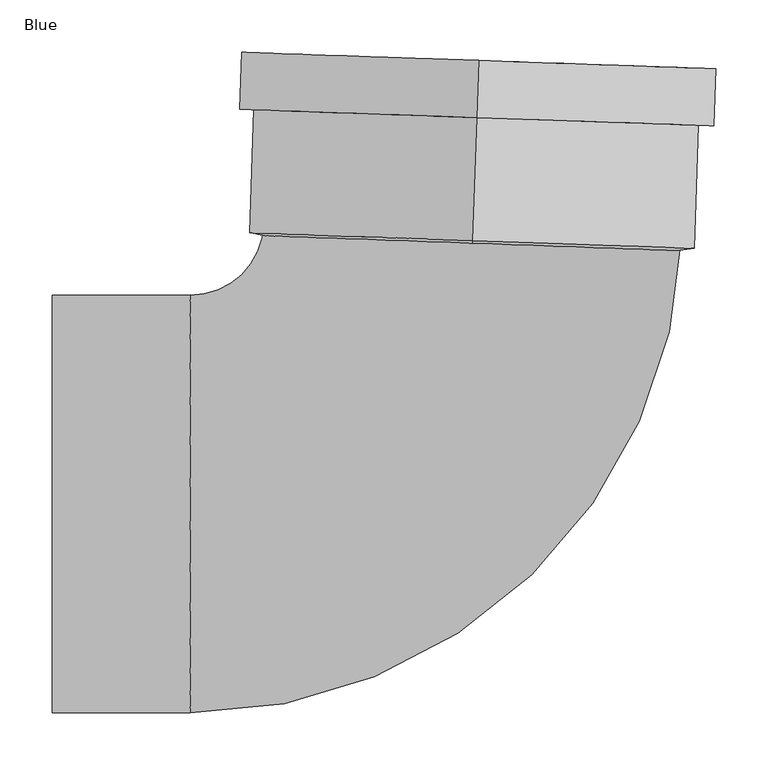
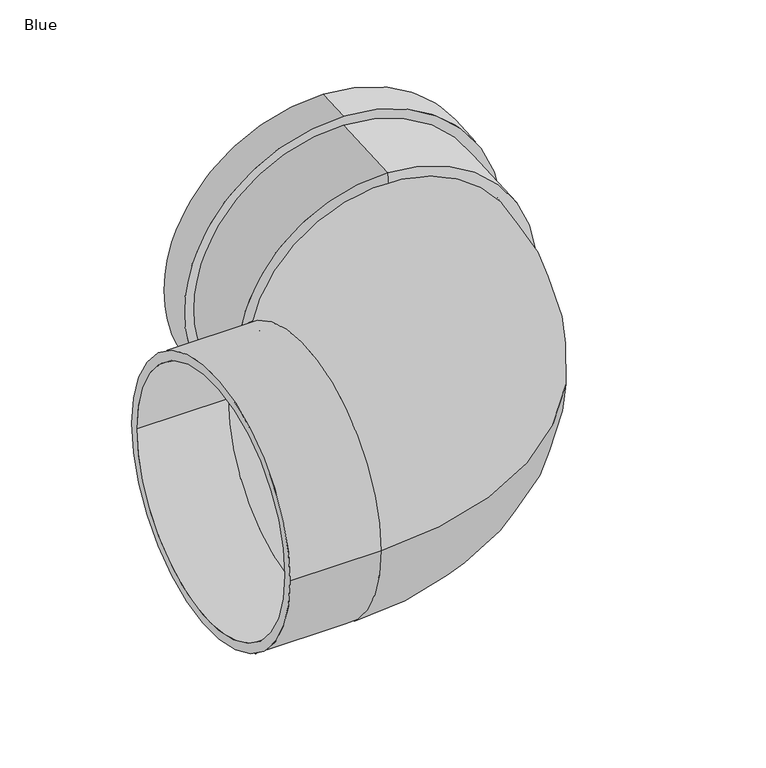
"""IFC4 building model written with IfcOpenShell, lengths in millimetres: pipe fitting geometry, AWADUKT PP SN10 Bend : Blue."""

from ifc_helpers import new_model, si_unit, point, frame, origin, place, context, project, spatial, polyline, circle_curve, ellipse_curve, trimmed, source, transform, mapped, element, save
from ifc_brep_helpers import plane_surface, cylinder_surface, revolved_surface, advanced_brep


def blue_7109e013(model_context):
    return source(origin(), model_context, "Body", "AdvancedBrep", [
        advanced_brep(
        [(12.9302635, 370.2743014, 213.7), (12.9302635, 370.2743014, -213.7), (8.8128214, 252.3661863, -213.7), (8.8128214, 252.3661863, 213.7), (14.8427559, 425.0409187, 227.4), (14.8427559, 425.0409187, -227.4), (12.9302635, 370.2743014, -227.4), (12.9302635, 370.2743014, 227.4), (14.3646328, 411.3492644, 200.0), (14.3646328, 411.3492644, -200.0), (14.8427559, 425.0409187, -200.0), (14.8427559, 425.0409187, 200.0), (13.4083866, 383.9659557, 213.7), (13.4083866, 383.9659557, -213.7), (14.3646328, 411.3492644, -213.7), (14.3646328, 411.3492644, 213.7), (9.2140143, 263.8548484, 200.0), (9.2140143, 263.8548484, -200.0), (13.4083866, 383.9659557, -200.0), (13.4083866, 383.9659557, 200.0), (9.1297083, 261.4406403, 186.3), (9.1297083, 261.4406403, -186.3), (8.6442094, 247.5377702, 186.3), (8.6442094, 247.5377702, -186.3)],
        [
            (0, 1, circle_curve(frame((12.9302635, 370.2743014, 0.0), z_axis=(-0.034899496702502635, -0.9993908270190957, 0.0), x_axis=(0.0, 0.0, -1.0)), 213.7)),
            (1, 2),
            (2, 3, circle_curve(frame((8.8128214, 252.3661863, 0.0), z_axis=(0.034899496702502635, 0.9993908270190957, 0.0), x_axis=(0.0, 0.0, -1.0)), 213.7)),
            (3, 0),
            (4, 5, circle_curve(frame((14.8427559, 425.0409187, 0.0), z_axis=(-0.034899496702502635, -0.9993908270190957, 0.0), x_axis=(0.0, 0.0, -1.0)), 227.4)),
            (5, 6),
            (6, 7, circle_curve(frame((12.9302635, 370.2743014, 0.0), z_axis=(0.034899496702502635, 0.9993908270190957, 0.0), x_axis=(0.0, 0.0, -1.0)), 227.4)),
            (7, 4),
            (8, 9, circle_curve(frame((14.3646328, 411.3492644, 0.0), z_axis=(-0.034899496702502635, -0.9993908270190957, 0.0), x_axis=(0.0, 0.0, -1.0)), 200.0)),
            (9, 10),
            (10, 11, circle_curve(frame((14.8427559, 425.0409187, 0.0), z_axis=(0.034899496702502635, 0.9993908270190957, 0.0), x_axis=(0.0, 0.0, -1.0)), 200.0)),
            (11, 8),
            (12, 13, circle_curve(frame((13.4083866, 383.9659557, 0.0), z_axis=(-0.034899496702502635, -0.9993908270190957, 0.0), x_axis=(0.0, 0.0, -1.0)), 213.7)),
            (13, 14),
            (14, 15, circle_curve(frame((14.3646328, 411.3492644, 0.0), z_axis=(0.034899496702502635, 0.9993908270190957, 0.0), x_axis=(0.0, 0.0, -1.0)), 213.7)),
            (15, 12),
            (16, 17, circle_curve(frame((9.2140143, 263.8548484, 0.0), z_axis=(-0.034899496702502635, -0.9993908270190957, 0.0), x_axis=(0.0, 0.0, -1.0)), 200.0)),
            (17, 18),
            (18, 19, circle_curve(frame((13.4083866, 383.9659557, 0.0), z_axis=(0.034899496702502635, 0.9993908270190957, 0.0), x_axis=(0.0, 0.0, -1.0)), 200.0)),
            (19, 16),
            (20, 21, circle_curve(frame((9.1297083, 261.4406403, 0.0), z_axis=(-0.034899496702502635, -0.9993908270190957, 0.0), x_axis=(0.0, 0.0, -1.0)), 186.3)),
            (21, 17),
            (16, 20),
            (22, 23, circle_curve(frame((8.6442094, 247.5377702, 0.0), z_axis=(-0.034899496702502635, -0.9993908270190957, 0.0), x_axis=(0.0, 0.0, -1.0)), 186.3)),
            (23, 21),
            (20, 22),
            (2, 23),
            (22, 3),
            (1, 0, circle_curve(frame((12.9302635, 370.2743014, 0.0), z_axis=(-0.034899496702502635, -0.9993908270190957, 0.0), x_axis=(0.0, 0.0, 1.0)), 213.7)),
            (3, 2, circle_curve(frame((8.8128214, 252.3661863, 0.0), z_axis=(0.034899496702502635, 0.9993908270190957, 0.0), x_axis=(0.0, 0.0, 1.0)), 213.7)),
            (6, 7, circle_curve(frame((12.9302635, 370.2743014, 0.0), z_axis=(-0.034899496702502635, -0.9993908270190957, 0.0), x_axis=(0.0, 0.0, 1.0)), 227.4)),
            (5, 4, circle_curve(frame((14.8427559, 425.0409187, 0.0), z_axis=(-0.034899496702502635, -0.9993908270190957, 0.0), x_axis=(0.0, 0.0, 1.0)), 227.4)),
            (10, 11, circle_curve(frame((14.8427559, 425.0409187, 0.0), z_axis=(-0.034899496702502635, -0.9993908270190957, 0.0), x_axis=(0.0, 0.0, 1.0)), 200.0)),
            (9, 8, circle_curve(frame((14.3646328, 411.3492644, 0.0), z_axis=(-0.034899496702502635, -0.9993908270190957, 0.0), x_axis=(0.0, 0.0, 1.0)), 200.0)),
            (14, 15, circle_curve(frame((14.3646328, 411.3492644, 0.0), z_axis=(-0.034899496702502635, -0.9993908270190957, 0.0), x_axis=(0.0, 0.0, 1.0)), 213.7)),
            (13, 12, circle_curve(frame((13.4083866, 383.9659557, 0.0), z_axis=(-0.034899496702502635, -0.9993908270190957, 0.0), x_axis=(0.0, 0.0, 1.0)), 213.7)),
            (18, 19, circle_curve(frame((13.4083866, 383.9659557, 0.0), z_axis=(-0.034899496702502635, -0.9993908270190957, 0.0), x_axis=(0.0, 0.0, 1.0)), 200.0)),
            (17, 16, circle_curve(frame((9.2140143, 263.8548484, 0.0), z_axis=(-0.034899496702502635, -0.9993908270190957, 0.0), x_axis=(0.0, 0.0, 1.0)), 200.0)),
            (21, 20, circle_curve(frame((9.1297083, 261.4406403, 0.0), z_axis=(-0.034899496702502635, -0.9993908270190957, 0.0), x_axis=(0.0, 0.0, 1.0)), 186.3)),
            (23, 22, circle_curve(frame((8.6442094, 247.5377702, 0.0), z_axis=(-0.034899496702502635, -0.9993908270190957, 0.0), x_axis=(0.0, 0.0, 1.0)), 186.3)),
        ],
        [
            cylinder_surface(frame((9.1297083, 261.4406403, 0.0), z_axis=(0.034899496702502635, 0.9993908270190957, 0.0), x_axis=(0.0, 0.0, -1.0)), 213.7),
            cylinder_surface(frame((9.1297083, 261.4406403, 0.0), z_axis=(0.034899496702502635, 0.9993908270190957, 0.0), x_axis=(0.0, 0.0, -1.0)), 227.4),
            revolved_surface(polyline([(14.842755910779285, 425.0409186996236, -200.0), (14.364632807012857, 411.34926439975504, -200.0)]), (9.1297083, 261.4406403, 0.0), (0.034899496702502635, 0.9993908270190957, 0.0)),
            revolved_surface(polyline([(14.364632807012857, 411.34926439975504, -213.7), (13.40838659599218, 383.96595570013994, -213.7)]), (9.1297083, 261.4406403, 0.0), (0.034899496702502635, 0.9993908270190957, 0.0)),
            revolved_surface(polyline([(13.40838659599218, 383.96595570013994, -200.0), (9.214014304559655, 263.85484839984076, -200.0)]), (9.1297083, 261.4406403, 0.0), (0.034899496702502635, 0.9993908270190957, 0.0)),
            revolved_surface(polyline([(9.2140143, 263.8548484, -200.0), (9.1297083, 261.4406403, -186.3)]), (9.1297083, 261.4406403, 0.0), (0.034899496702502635, 0.9993908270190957, 0.0)),
            revolved_surface(polyline([(9.1297083, 261.4406403, -186.3), (8.644209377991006, 247.5377702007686, -186.3)]), (9.1297083, 261.4406403, 0.0), (0.034899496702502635, 0.9993908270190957, 0.0)),
            revolved_surface(polyline([(8.6442094, 247.5377702, -186.3), (8.8128214, 252.3661863, -213.7)]), (9.1297083, 261.4406403, 0.0), (0.034899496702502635, 0.9993908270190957, 0.0)),
            cylinder_surface(frame((9.1297083, 261.4406403, 0.0), z_axis=(0.034899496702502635, 0.9993908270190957, 0.0), x_axis=(0.0, 0.0, 1.0)), 213.7),
            plane_surface(frame((12.9302635, 370.2743014, 0.0), z_axis=(-0.034899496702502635, -0.9993908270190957, 0.0), x_axis=(0.0, 0.0, 1.0))),
            cylinder_surface(frame((9.1297083, 261.4406403, 0.0), z_axis=(0.034899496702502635, 0.9993908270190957, 0.0), x_axis=(0.0, 0.0, 1.0)), 227.4),
            plane_surface(frame((14.8427559, 425.0409187, 0.0), z_axis=(0.034899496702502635, 0.9993908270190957, 0.0), x_axis=(0.0, 0.0, 1.0))),
            revolved_surface(polyline([(14.842755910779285, 425.0409186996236, 200.0), (14.364632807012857, 411.34926439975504, 200.0)]), (9.1297083, 261.4406403, 0.0), (0.034899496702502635, 0.9993908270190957, 0.0)),
            plane_surface(frame((14.3646328, 411.3492644, 0.0), z_axis=(-0.034899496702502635, -0.9993908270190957, 0.0), x_axis=(0.0, 0.0, 1.0))),
            revolved_surface(polyline([(14.364632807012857, 411.34926439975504, 213.7), (13.40838659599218, 383.96595570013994, 213.7)]), (9.1297083, 261.4406403, 0.0), (0.034899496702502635, 0.9993908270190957, 0.0)),
            plane_surface(frame((13.4083866, 383.9659557, 0.0), z_axis=(0.034899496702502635, 0.9993908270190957, 0.0), x_axis=(0.0, 0.0, 1.0))),
            revolved_surface(polyline([(13.40838659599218, 383.96595570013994, 200.0), (9.214014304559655, 263.85484839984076, 200.0)]), (9.1297083, 261.4406403, 0.0), (0.034899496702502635, 0.9993908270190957, 0.0)),
            revolved_surface(polyline([(9.2140143, 263.8548484, 200.0), (9.1297083, 261.4406403, 186.3)]), (9.1297083, 261.4406403, 0.0), (0.034899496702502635, 0.9993908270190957, 0.0)),
            revolved_surface(polyline([(9.1297083, 261.4406403, 186.3), (8.644209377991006, 247.5377702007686, 186.3)]), (9.1297083, 261.4406403, 0.0), (0.034899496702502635, 0.9993908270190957, 0.0)),
            revolved_surface(polyline([(8.6442094, 247.5377702, 186.3), (8.8128214, 252.3661863, 213.7)]), (9.1297083, 261.4406403, 0.0), (0.034899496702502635, 0.9993908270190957, 0.0)),
        ],
        [
            (0, [[1, 2, 3, 4]]),
            (1, [[5, 6, 7, 8]]),
            (2, [[9, 10, 11, 12]]),
            (3, [[13, 14, 15, 16]]),
            (4, [[17, 18, 19, 20]]),
            (5, [[21, 22, -17, 23]]),
            (6, [[24, 25, -21, 26]]),
            (7, [[-3, 27, -24, 28]]),
            (8, [[29, -4, 30, -2]]),
            (9, [[31, -7], [-29, -1]]),
            (10, [[32, -8, -31, -6]]),
            (11, [[-32, -5], [33, -11]]),
            (12, [[34, -12, -33, -10]]),
            (13, [[35, -15], [-34, -9]]),
            (14, [[36, -16, -35, -14]]),
            (15, [[-36, -13], [37, -19]]),
            (16, [[38, -20, -37, -18]]),
            (17, [[39, -23, -38, -22]]),
            (18, [[40, -26, -39, -25]]),
            (19, [[-30, -28, -40, -27]]),
        ],
    ),
        advanced_brep(
        [(-394.0, -200.0, 0.0), (-394.0, 200.0, 0.0), (-394.0, -186.3, 0.0), (-394.0, 186.3, 0.0), (209.0078737, 254.460741, 0.0), (-190.7484571, 268.4205397, 0.0), (195.3162194, 254.9388641, 0.0), (-177.0568027, 267.9424166, 0.0), (-261.6, -186.3, 0.0), (-261.6, 186.3, 0.0), (-261.6, -200.0, 0.0), (-261.6, 200.0, 0.0)],
        [
            (0, 1, circle_curve(frame((-394.0, 0.0, 0.0), z_axis=(-1.0, 0.0, 0.0), x_axis=(0.0, 1.0, 0.0)), 200.0)),
            (1, 0, circle_curve(frame((-394.0, 0.0, 0.0), z_axis=(-1.0, 0.0, 0.0), x_axis=(0.0, 1.0, 0.0)), 200.0)),
            (2, 3, circle_curve(frame((-394.0, 0.0, 0.0), z_axis=(1.0, 0.0, 0.0), x_axis=(0.0, 1.0, 0.0)), 186.3)),
            (3, 2, circle_curve(frame((-394.0, 0.0, 0.0), z_axis=(1.0, 0.0, 0.0), x_axis=(0.0, 1.0, 0.0)), 186.3)),
            (4, 5, circle_curve(frame((9.1297083, 261.4406403, 0.0), z_axis=(0.03489949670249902, 0.9993908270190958, 0.0), x_axis=(-0.9993908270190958, 0.03489949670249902, 0.0)), 200.0)),
            (5, 4, circle_curve(frame((9.1297083, 261.4406403, 0.0), z_axis=(0.03489949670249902, 0.9993908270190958, 0.0), x_axis=(-0.9993908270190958, 0.03489949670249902, 0.0)), 200.0)),
            (6, 7, circle_curve(frame((9.1297083, 261.4406403, 0.0), z_axis=(-0.03489949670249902, -0.9993908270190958, 0.0), x_axis=(-0.9993908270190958, 0.03489949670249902, 0.0)), 186.3)),
            (7, 6, circle_curve(frame((9.1297083, 261.4406403, 0.0), z_axis=(-0.03489949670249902, -0.9993908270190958, 0.0), x_axis=(-0.9993908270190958, 0.03489949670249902, 0.0)), 186.3)),
            (2, 8),
            (8, 9, circle_curve(frame((-261.6, 0.0, 0.0), z_axis=(1.0, 0.0, 0.0), x_axis=(0.0, 1.0, 0.0)), 186.3)),
            (9, 3),
            (9, 8, circle_curve(frame((-261.6, 0.0, 0.0), z_axis=(1.0, 0.0, 0.0), x_axis=(0.0, 1.0, 0.0)), 186.3)),
            (0, 10),
            (10, 11, circle_curve(frame((-261.6, 0.0, 0.0), z_axis=(-1.0, 0.0, 0.0), x_axis=(0.0, 1.0, 0.0)), 200.0)),
            (11, 1),
            (11, 10, circle_curve(frame((-261.6, 0.0, 0.0), z_axis=(-1.0, 0.0, 0.0), x_axis=(0.0, 1.0, 0.0)), 200.0)),
            (7, 9, circle_curve(frame((-261.6, 270.8947301, 0.0), z_axis=(0.0, 0.0, -1.0), x_axis=(0.0, -1.0, 0.0)), 84.5947301)),
            (8, 6, circle_curve(frame((-261.6, 270.8947301, 0.0), z_axis=(0.0, 0.0, 1.0), x_axis=(0.0, -1.0, 0.0)), 457.1947301)),
            (5, 11, circle_curve(frame((-261.6, 270.8947301, 0.0), z_axis=(0.0, 0.0, -1.0), x_axis=(0.0, -1.0, 0.0)), 70.8947301)),
            (10, 4, circle_curve(frame((-261.6, 270.8947301, 0.0), z_axis=(0.0, 0.0, 1.0), x_axis=(0.0, -1.0, 0.0)), 470.8947301)),
        ],
        [
            plane_surface(frame((-394.0, 0.0, 0.0), z_axis=(-1.0, 0.0, 0.0), x_axis=(0.0, 0.0, 1.0))),
            plane_surface(frame((9.1297083, 261.4406403, 0.0), z_axis=(0.03489949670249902, 0.9993908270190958, 0.0), x_axis=(0.0, 0.0, 1.0))),
            revolved_surface(polyline([(-261.6, 186.3, 0.0), (-394.0, 186.3, 0.0)]), (-394.0, 0.0, 0.0), (1.0, 0.0, 0.0)),
            cylinder_surface(frame((-394.0, 0.0, 0.0), z_axis=(-1.0, 0.0, 0.0), x_axis=(0.0, 1.0, 0.0)), 200.0),
            revolved_surface(trimmed(ellipse_curve(frame((-261.6, 0.0, 0.0), z_axis=(1.0, 0.0, 0.0), x_axis=(0.0, 1.0, 0.0)), 186.3, 186.3), [point((-261.6, -186.3, 0.0))], [point((-261.6, 186.3, 0.0))], True, "CARTESIAN"), (-261.6, 270.8947301, 0.0), (0.0, 0.0, 1.0)),
            revolved_surface(trimmed(ellipse_curve(frame((-261.6, 0.0, 0.0), z_axis=(1.0, 0.0, 0.0), x_axis=(0.0, 1.0, 0.0)), 186.3, 186.3), [point((-261.6, 186.3, 0.0))], [point((-261.6, -186.3, 0.0))], True, "CARTESIAN"), (-261.6, 270.8947301, 0.0), (0.0, 0.0, 1.0)),
            revolved_surface(trimmed(ellipse_curve(frame((-261.6, 0.0, 0.0), z_axis=(-1.0, 0.0, 0.0), x_axis=(0.0, 1.0, 0.0)), 200.0, 200.0), [point((-261.6, -200.0, 0.0))], [point((-261.6, 200.0, 0.0))], True, "CARTESIAN"), (-261.6, 270.8947301, 0.0), (0.0, 0.0, 1.0)),
            revolved_surface(trimmed(ellipse_curve(frame((-261.6, 0.0, 0.0), z_axis=(-1.0, 0.0, 0.0), x_axis=(0.0, 1.0, 0.0)), 200.0, 200.0), [point((-261.6, 200.0, 0.0))], [point((-261.6, -200.0, 0.0))], True, "CARTESIAN"), (-261.6, 270.8947301, 0.0), (0.0, 0.0, 1.0)),
        ],
        [
            (0, [[1, 2], [3, 4]]),
            (1, [[5, 6], [7, 8]]),
            (2, [[-3, 9, 10, 11]]),
            (2, [[-4, -11, 12, -9]]),
            (3, [[-1, 13, 14, 15]]),
            (3, [[-2, -15, 16, -13]]),
            (4, [[17, -10, 18, -8]]),
            (5, [[-18, -12, -17, -7]]),
            (6, [[19, -14, 20, -6]]),
            (7, [[-20, -16, -19, -5]]),
        ],
    ),
    ])


if __name__ == "__main__":
    model = new_model("IFC4")
    model_context = context("Model", 3, world=origin())
    ifc_project = project(units=[si_unit("LENGTHUNIT", "METRE", prefix="MILLI")], contexts=[model_context])
    site = spatial("IfcSite", under=ifc_project)
    building = spatial("IfcBuilding", under=site)
    placement = place(None, origin())
    blue_shape = blue_7109e013(model_context)
    element("IfcPipeFitting", 1, ObjectType="AWADUKT PP SN10 Bend : Blue", at=placement, inside=building, context=model_context, shape_type="MappedRepresentation", body=[
        mapped(blue_shape, transform((0.0, 0.0, 0.0), x_axis=(1.0, 0.0, 0.0), y_axis=(0.0, 1.0, 0.0), z_axis=(0.0, 0.0, 1.0))),
    ])
    save(model, "model.ifc")
